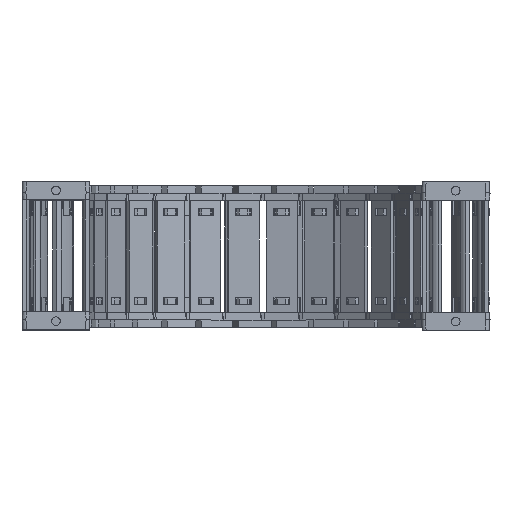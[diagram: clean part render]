
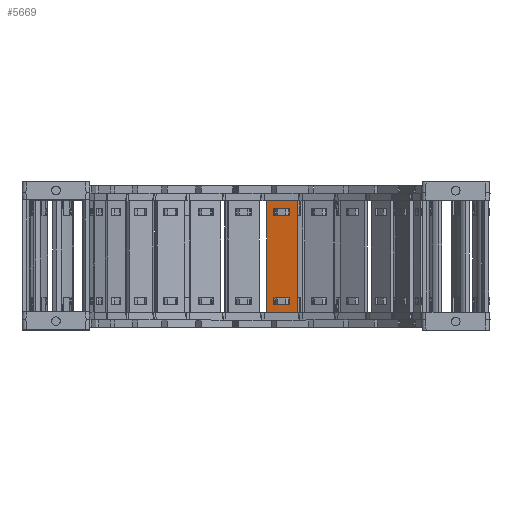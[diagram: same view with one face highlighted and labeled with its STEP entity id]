
A CAD part, top view. The second image highlights one B-rep face of the part: STEP entity #5669.
In plain terms, the highlighted planar face has unit normal (-0.182, 0, 0.983) as drawn and (0, 1, 0) by its records, which use the part's own axes.
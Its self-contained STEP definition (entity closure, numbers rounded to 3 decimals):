
#5089=DIRECTION('',(0.,0.,1.));
#5090=VECTOR('',#5089,15.8);
#5091=CARTESIAN_POINT('',(42.24,1.5,-7.9));
#5092=LINE('',#5091,#5090);
#5093=DIRECTION('',(-1.,0.,0.));
#5094=VECTOR('',#5093,57.);
#5095=CARTESIAN_POINT('',(42.24,1.5,7.9));
#5096=LINE('',#5095,#5094);
#5097=DIRECTION('',(0.,0.,-1.));
#5098=VECTOR('',#5097,15.8);
#5099=CARTESIAN_POINT('',(-14.76,1.5,7.9));
#5100=LINE('',#5099,#5098);
#5101=DIRECTION('',(1.,0.,0.));
#5102=VECTOR('',#5101,3.648);
#5103=CARTESIAN_POINT('',(34.622,1.5,4.075));
#5104=LINE('',#5103,#5102);
#5105=DIRECTION('',(0.,0.,-1.));
#5106=VECTOR('',#5105,8.15);
#5107=CARTESIAN_POINT('',(38.27,1.5,4.075));
#5108=LINE('',#5107,#5106);
#5109=DIRECTION('',(-1.,0.,0.));
#5110=VECTOR('',#5109,3.648);
#5111=CARTESIAN_POINT('',(38.27,1.5,-4.075));
#5112=LINE('',#5111,#5110);
#5113=DIRECTION('',(0.,0.,-1.));
#5114=VECTOR('',#5113,8.15);
#5115=CARTESIAN_POINT('',(-7.142,1.5,4.075));
#5116=LINE('',#5115,#5114);
#5117=DIRECTION('',(-1.,0.,0.));
#5118=VECTOR('',#5117,3.648);
#5119=CARTESIAN_POINT('',(-7.142,1.5,-4.075));
#5120=LINE('',#5119,#5118);
#5121=DIRECTION('',(0.,0.,1.));
#5122=VECTOR('',#5121,8.15);
#5123=CARTESIAN_POINT('',(-10.79,1.5,-4.075));
#5124=LINE('',#5123,#5122);
#5125=DIRECTION('',(1.,0.,0.));
#5126=VECTOR('',#5125,3.648);
#5127=CARTESIAN_POINT('',(-10.79,1.5,4.075));
#5128=LINE('',#5127,#5126);
#5133=DIRECTION('',(-1.,0.,0.));
#5134=VECTOR('',#5133,57.);
#5135=CARTESIAN_POINT('',(42.24,1.5,-7.9));
#5136=LINE('',#5135,#5134);
#5254=DIRECTION('',(0.,0.,-1.));
#5255=VECTOR('',#5254,8.15);
#5256=CARTESIAN_POINT('',(34.622,1.5,4.075));
#5257=LINE('',#5256,#5255);
#5439=CARTESIAN_POINT('',(38.27,1.5,4.075));
#5440=VERTEX_POINT('',#5439);
#5441=CARTESIAN_POINT('',(34.622,1.5,4.075));
#5442=VERTEX_POINT('',#5441);
#5483=CARTESIAN_POINT('',(34.622,1.5,-4.075));
#5484=VERTEX_POINT('',#5483);
#5485=CARTESIAN_POINT('',(38.27,1.5,-4.075));
#5486=VERTEX_POINT('',#5485);
#5487=CARTESIAN_POINT('',(42.24,1.5,7.9));
#5489=VERTEX_POINT('',#5487);
#5491=CARTESIAN_POINT('',(42.24,1.5,-7.9));
#5492=VERTEX_POINT('',#5491);
#5515=CARTESIAN_POINT('',(-7.142,1.5,4.075));
#5516=CARTESIAN_POINT('',(-7.142,1.5,-4.075));
#5517=VERTEX_POINT('',#5515);
#5518=VERTEX_POINT('',#5516);
#5519=CARTESIAN_POINT('',(-10.79,1.5,-4.075));
#5520=VERTEX_POINT('',#5519);
#5521=CARTESIAN_POINT('',(-10.79,1.5,4.075));
#5522=VERTEX_POINT('',#5521);
#5523=CARTESIAN_POINT('',(-14.76,1.5,7.9));
#5524=VERTEX_POINT('',#5523);
#5527=CARTESIAN_POINT('',(-14.76,1.5,-7.9));
#5528=VERTEX_POINT('',#5527);
#5638=CARTESIAN_POINT('',(73.98,1.5,10.061));
#5639=DIRECTION('',(0.,-1.,0.));
#5640=DIRECTION('',(0.,0.,-1.));
#5641=AXIS2_PLACEMENT_3D('',#5638,#5639,#5640);
#5642=PLANE('',#5641);
#5643=ORIENTED_EDGE('',*,*,#5577,.T.);
#5644=ORIENTED_EDGE('',*,*,#5603,.T.);
#5645=ORIENTED_EDGE('',*,*,#5616,.T.);
#5647=ORIENTED_EDGE('',*,*,#5646,.F.);
#5648=EDGE_LOOP('',(#5643,#5644,#5645,#5647));
#5649=FACE_OUTER_BOUND('',#5648,.F.);
#5651=ORIENTED_EDGE('',*,*,#5650,.F.);
#5652=ORIENTED_EDGE('',*,*,#5540,.T.);
#5654=ORIENTED_EDGE('',*,*,#5653,.T.);
#5656=ORIENTED_EDGE('',*,*,#5655,.T.);
#5657=EDGE_LOOP('',(#5651,#5652,#5654,#5656));
#5658=FACE_BOUND('',#5657,.F.);
#5660=ORIENTED_EDGE('',*,*,#5659,.T.);
#5662=ORIENTED_EDGE('',*,*,#5661,.T.);
#5664=ORIENTED_EDGE('',*,*,#5663,.T.);
#5666=ORIENTED_EDGE('',*,*,#5665,.T.);
#5667=EDGE_LOOP('',(#5660,#5662,#5664,#5666));
#5668=FACE_BOUND('',#5667,.F.);
#5669=ADVANCED_FACE('',(#5649,#5658,#5668),#5642,.F.);
#5540=EDGE_CURVE('',#5442,#5440,#5104,.T.);
#5577=EDGE_CURVE('',#5492,#5489,#5092,.T.);
#5603=EDGE_CURVE('',#5489,#5524,#5096,.T.);
#5616=EDGE_CURVE('',#5524,#5528,#5100,.T.);
#5646=EDGE_CURVE('',#5492,#5528,#5136,.T.);
#5650=EDGE_CURVE('',#5442,#5484,#5257,.T.);
#5653=EDGE_CURVE('',#5440,#5486,#5108,.T.);
#5655=EDGE_CURVE('',#5486,#5484,#5112,.T.);
#5659=EDGE_CURVE('',#5517,#5518,#5116,.T.);
#5661=EDGE_CURVE('',#5518,#5520,#5120,.T.);
#5663=EDGE_CURVE('',#5520,#5522,#5124,.T.);
#5665=EDGE_CURVE('',#5522,#5517,#5128,.T.);
